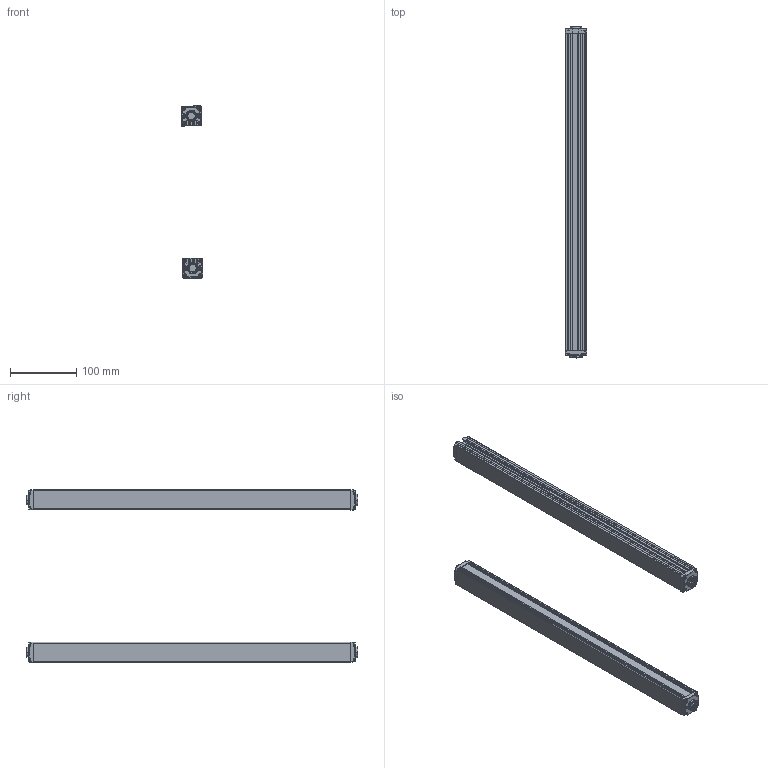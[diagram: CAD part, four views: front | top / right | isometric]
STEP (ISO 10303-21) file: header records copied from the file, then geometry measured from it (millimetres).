
FILE_DESCRIPTION (( 'STEP AP203' ), '1' );
FILE_NAME ('ZDA4610-480.STEP', '2022-08-30T03:49:48', ( 'Windows 蚚誧' ), ( 'Organization' ), 'SwSTEP 2.0', 'SolidWorks 2020', '' );
FILE_SCHEMA (( 'CONFIG_CONTROL_DESIGN' ));
Length unit declared in the file: millimetre
Products named in the file (5): 錨璃8; 錨璃10; 錨璃8 - 萵掛 (2); ZDA4610-480; 錨璃1
Assembly tree (8 placements, depth 2):
  ZDA4610-480
    錨璃1  x2
    錨璃8  x2
    錨璃8 - 萵掛 (2)  x2
    錨璃10  x2
Bounding box: 32.36 x 501.4 x 260.35 mm (x, y, z)
Volume: 310730.5 mm3; surface area: 330405.3 mm2
Topology: 8 solids, 8 shells, 1032 faces, 2690 edges, 1668 vertices
Faces by surface type: plane 464, cylinder 310, cone 120, bspline 58, torus 48, sphere 32
Entity records: 17901 total; most frequent: CARTESIAN_POINT 4731, ORIENTED_EDGE 2666, DIRECTION 2616, EDGE_CURVE 1333, AXIS2_PLACEMENT_3D 894, VERTEX_POINT 834, LINE 828, VECTOR 828
